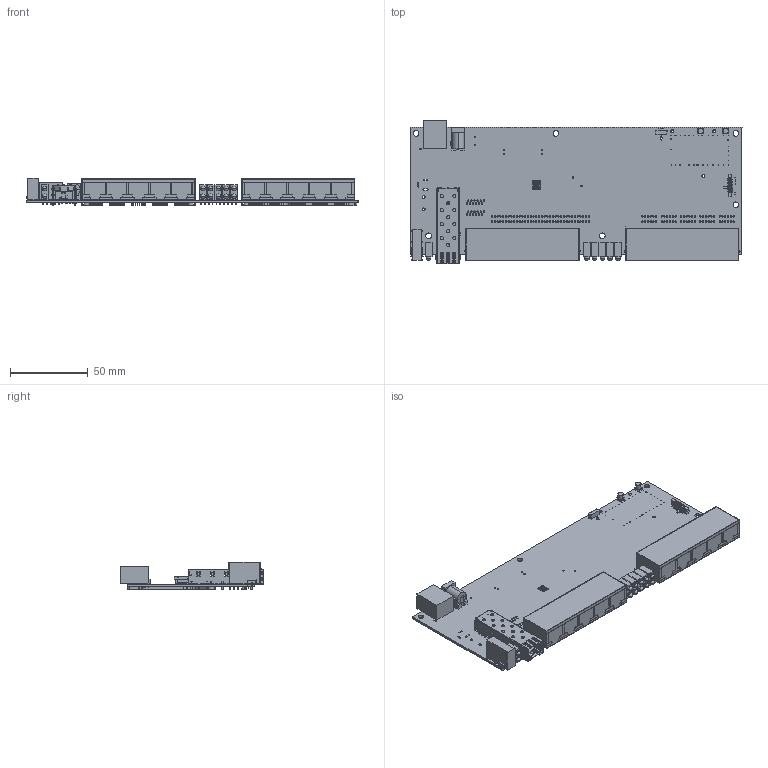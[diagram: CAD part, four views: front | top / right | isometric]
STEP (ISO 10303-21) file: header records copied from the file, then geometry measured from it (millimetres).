
FILE_DESCRIPTION (( 'STEP AP203' ), '1' );
FILE_NAME ('RB2011-c-pcb.STEP', '2015-04-27T12:23:07', ( 'User' ), ( '' ), 'SwSTEP 2.0', 'SolidWorks 2015', '' );
FILE_SCHEMA (( 'CONFIG_CONTROL_DESIGN' ));
Products named in the file (1): RB2011-c-pcb
Bounding box: 214 x 92.33 x 17.65 mm (x, y, z)
Surface area: 65449.9 mm2 (no closed solid volume)
Topology: 0 solids, 323 shells, 1986 faces, 7434 edges, 5602 vertices
Faces by surface type: plane 1281, cylinder 681, bspline 24
Entity records: 80281 total; most frequent: CARTESIAN_POINT 15359, DIRECTION 13734, ORIENTED_EDGE 11306, EDGE_CURVE 7386, VERTEX_POINT 5602, VECTOR 4948, LINE 4948, AXIS2_PLACEMENT_3D 4393
